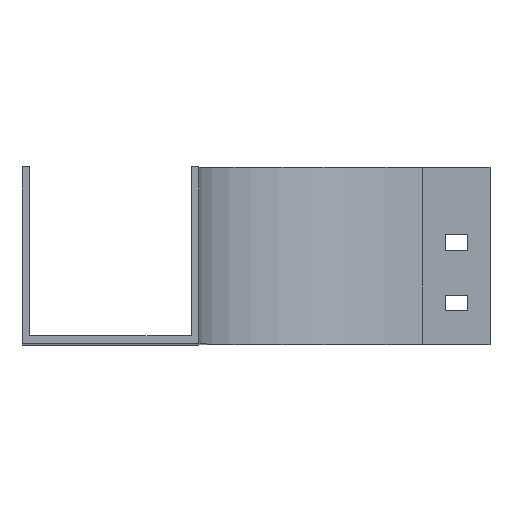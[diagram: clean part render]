
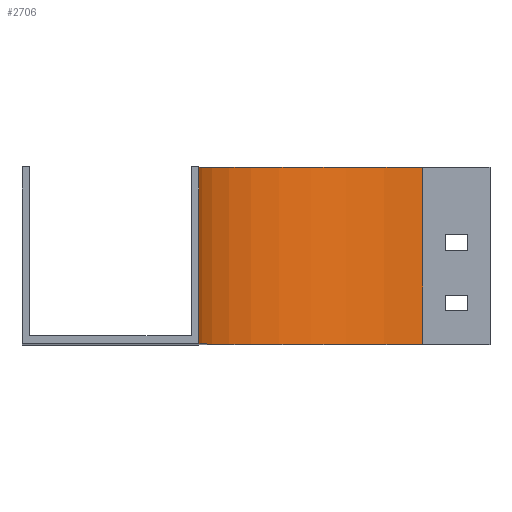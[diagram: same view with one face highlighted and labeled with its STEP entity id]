
A CAD part, top view. The second image highlights one B-rep face of the part: STEP entity #2706.
In plain terms, the highlighted cylindrical face has radius 100 mm (diameter 200 mm), a partial arc.
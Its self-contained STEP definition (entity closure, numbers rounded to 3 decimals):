
#24 = CARTESIAN_POINT ( 'NONE',  ( -100., 79., 0. ) ) ;
#55 = CARTESIAN_POINT ( 'NONE',  ( -100., 79., 0. ) ) ;
#69 = FACE_OUTER_BOUND ( 'NONE', #1920, .T. ) ;
#76 = AXIS2_PLACEMENT_3D ( 'NONE', #981, #1452, #138 ) ;
#138 = DIRECTION ( 'NONE',  ( 0., 0., -1. ) ) ;
#374 = CARTESIAN_POINT ( 'NONE',  ( 0., 79., -100. ) ) ;
#602 = DIRECTION ( 'NONE',  ( 0., -1., 0. ) ) ;
#627 = EDGE_CURVE ( 'NONE', #1591, #732, #2431, .T. ) ;
#676 = ORIENTED_EDGE ( 'NONE', *, *, #1601, .T. ) ;
#689 = AXIS2_PLACEMENT_3D ( 'NONE', #1827, #2284, #2687 ) ;
#732 = VERTEX_POINT ( 'NONE', #374 ) ;
#768 = ORIENTED_EDGE ( 'NONE', *, *, #627, .F. ) ;
#802 = CARTESIAN_POINT ( 'NONE',  ( 0., 0., -100. ) ) ;
#808 = VECTOR ( 'NONE', #602, 1000. ) ;
#866 = DIRECTION ( 'NONE',  ( 0., -1., 0. ) ) ;
#938 = VECTOR ( 'NONE', #866, 1000. ) ;
#981 = CARTESIAN_POINT ( 'NONE',  ( 0., 79., 0. ) ) ;
#1062 = AXIS2_PLACEMENT_3D ( 'NONE', #2206, #2419, #1764 ) ;
#1101 = EDGE_CURVE ( 'NONE', #2141, #2437, #2704, .T. ) ;
#1110 = LINE ( 'NONE', #55, #938 ) ;
#1145 = CARTESIAN_POINT ( 'NONE',  ( -100., 0., 0. ) ) ;
#1452 = DIRECTION ( 'NONE',  ( 0., -1., 0. ) ) ;
#1591 = VERTEX_POINT ( 'NONE', #24 ) ;
#1601 = EDGE_CURVE ( 'NONE', #1591, #2141, #1110, .T. ) ;
#1764 = DIRECTION ( 'NONE',  ( 0., 0., -1. ) ) ;
#1793 = ORIENTED_EDGE ( 'NONE', *, *, #1101, .T. ) ;
#1827 = CARTESIAN_POINT ( 'NONE',  ( 0., 0., 0. ) ) ;
#1873 = LINE ( 'NONE', #2526, #808 ) ;
#1920 = EDGE_LOOP ( 'NONE', ( #1793, #2130, #768, #676 ) ) ;
#1951 = CYLINDRICAL_SURFACE ( 'NONE', #1062, 100. ) ;
#1972 = EDGE_CURVE ( 'NONE', #732, #2437, #1873, .T. ) ;
#2130 = ORIENTED_EDGE ( 'NONE', *, *, #1972, .F. ) ;
#2141 = VERTEX_POINT ( 'NONE', #1145 ) ;
#2206 = CARTESIAN_POINT ( 'NONE',  ( 0., 79., 0. ) ) ;
#2284 = DIRECTION ( 'NONE',  ( 0., -1., 0. ) ) ;
#2419 = DIRECTION ( 'NONE',  ( 0., -1., 0. ) ) ;
#2431 = CIRCLE ( 'NONE', #76, 100. ) ;
#2437 = VERTEX_POINT ( 'NONE', #802 ) ;
#2526 = CARTESIAN_POINT ( 'NONE',  ( 0., 79., -100. ) ) ;
#2687 = DIRECTION ( 'NONE',  ( 0., 0., -1. ) ) ;
#2704 = CIRCLE ( 'NONE', #689, 100. ) ;
#2706 = ADVANCED_FACE ( 'NONE', ( #69 ), #1951, .F. ) ;
